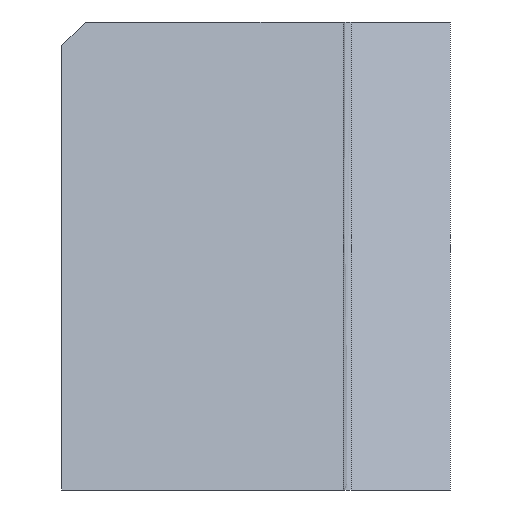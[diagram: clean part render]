
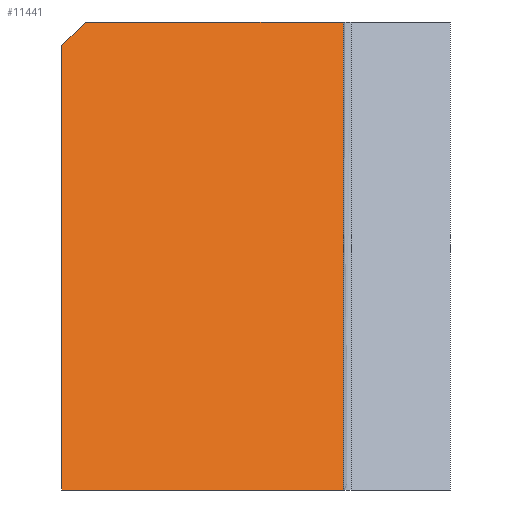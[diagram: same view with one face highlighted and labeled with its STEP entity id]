
A CAD part, left-side view. The second image highlights one B-rep face of the part: STEP entity #11441.
In plain terms, the highlighted planar face has unit normal (-0.943, 0, 0.334).
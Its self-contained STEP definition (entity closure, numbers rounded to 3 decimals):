
#1420=ORIENTED_EDGE('',*,*,#4854,.F.);
#1421=ORIENTED_EDGE('',*,*,#4855,.T.);
#1422=ORIENTED_EDGE('',*,*,#4131,.F.);
#1423=ORIENTED_EDGE('',*,*,#4856,.F.);
#1424=ORIENTED_EDGE('',*,*,#4551,.F.);
#4131=EDGE_CURVE('',#5848,#5849,#6971,.T.);
#4551=EDGE_CURVE('',#6267,#6269,#7256,.T.);
#4854=EDGE_CURVE('',#6571,#6267,#7459,.T.);
#4855=EDGE_CURVE('',#6571,#5849,#7460,.T.);
#4856=EDGE_CURVE('',#6269,#5848,#7461,.T.);
#5848=VERTEX_POINT('',#16138);
#5849=VERTEX_POINT('',#16139);
#6267=VERTEX_POINT('',#17598);
#6269=VERTEX_POINT('',#17601);
#6571=VERTEX_POINT('',#18207);
#6971=LINE('',#16137,#8324);
#7256=LINE('',#17600,#8609);
#7459=LINE('',#18206,#8812);
#7460=LINE('',#18208,#8813);
#7461=LINE('',#18209,#8814);
#8324=VECTOR('',#12851,1000.);
#8609=VECTOR('',#13340,1000.);
#8812=VECTOR('',#13745,1000.);
#8813=VECTOR('',#13746,1000.);
#8814=VECTOR('',#13747,1000.);
#9619=EDGE_LOOP('',(#1420,#1421,#1422,#1423,#1424));
#10324=FACE_BOUND('',#9619,.T.);
#10987=PLANE('',#12291);
#11441=ADVANCED_FACE('',(#10324),#10987,.T.);
#12291=AXIS2_PLACEMENT_3D('',#18205,#13743,#13744);
#12851=DIRECTION('',(0.,1.,0.));
#13340=DIRECTION('',(0.,-1.,0.));
#13743=DIRECTION('',(-0.942,0.,0.334));
#13744=DIRECTION('',(0.,1.,0.));
#13745=DIRECTION('',(0.243,-0.686,0.686));
#13746=DIRECTION('',(-0.334,0.,-0.942));
#13747=DIRECTION('',(-0.334,0.,-0.942));
#16137=CARTESIAN_POINT('',(-20.926,0.,-59.));
#16138=CARTESIAN_POINT('',(-20.926,-35.5,-59.));
#16139=CARTESIAN_POINT('',(-20.926,0.,-59.));
#17598=CARTESIAN_POINT('',(0.,-3.,0.));
#17600=CARTESIAN_POINT('',(0.,0.,0.));
#17601=CARTESIAN_POINT('',(0.,-35.5,0.));
#18205=CARTESIAN_POINT('',(0.,-35.5,0.));
#18206=CARTESIAN_POINT('',(2.609,-10.356,7.356));
#18207=CARTESIAN_POINT('',(-1.064,0.,-3.));
#18208=CARTESIAN_POINT('',(0.,0.,0.));
#18209=CARTESIAN_POINT('',(0.,-35.5,0.));
